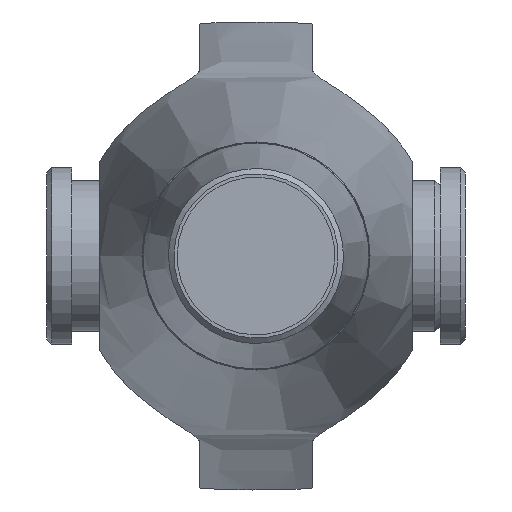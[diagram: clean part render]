
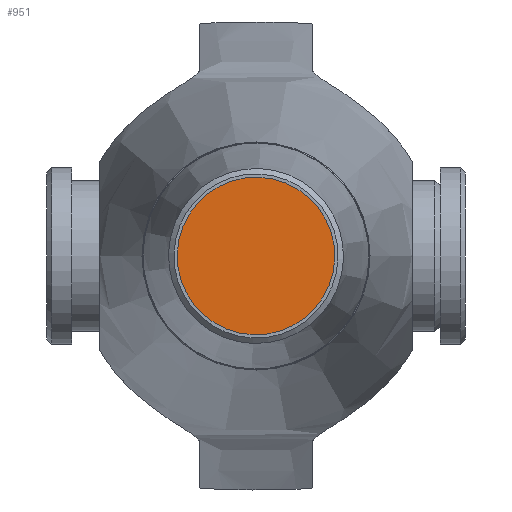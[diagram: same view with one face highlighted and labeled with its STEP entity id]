
A CAD part, left-side view. The second image highlights one B-rep face of the part: STEP entity #951.
In plain terms, the highlighted planar face has unit normal (-1, 0, 0).
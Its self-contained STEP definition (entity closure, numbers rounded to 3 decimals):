
#70=PLANE('',#1043);
#100=FACE_OUTER_BOUND('',#158,.T.);
#158=EDGE_LOOP('',(#627,#628));
#313=CIRCLE('',#1041,31.25);
#314=CIRCLE('',#1042,31.25);
#381=VERTEX_POINT('',#1474);
#382=VERTEX_POINT('',#1476);
#479=EDGE_CURVE('',#382,#381,#313,.T.);
#480=EDGE_CURVE('',#381,#382,#314,.T.);
#627=ORIENTED_EDGE('',*,*,#479,.T.);
#628=ORIENTED_EDGE('',*,*,#480,.T.);
#951=ADVANCED_FACE('',(#100),#70,.T.);
#1041=AXIS2_PLACEMENT_3D('',#1477,#1186,#1187);
#1042=AXIS2_PLACEMENT_3D('',#1478,#1188,#1189);
#1043=AXIS2_PLACEMENT_3D('',#1479,#1190,#1191);
#1186=DIRECTION('center_axis',(-1.,0.,0.));
#1187=DIRECTION('ref_axis',(0.,-0.138,-0.99));
#1188=DIRECTION('center_axis',(-1.,0.,0.));
#1189=DIRECTION('ref_axis',(0.,-0.138,-0.99));
#1190=DIRECTION('center_axis',(-1.,0.,0.));
#1191=DIRECTION('ref_axis',(0.,-0.138,-0.99));
#1474=CARTESIAN_POINT('',(-614.5,-30.951,4.309));
#1476=CARTESIAN_POINT('',(-614.5,30.951,-4.309));
#1477=CARTESIAN_POINT('Origin',(-614.5,0.,0.));
#1478=CARTESIAN_POINT('Origin',(-614.5,0.,0.));
#1479=CARTESIAN_POINT('Origin',(-614.5,0.,0.));
